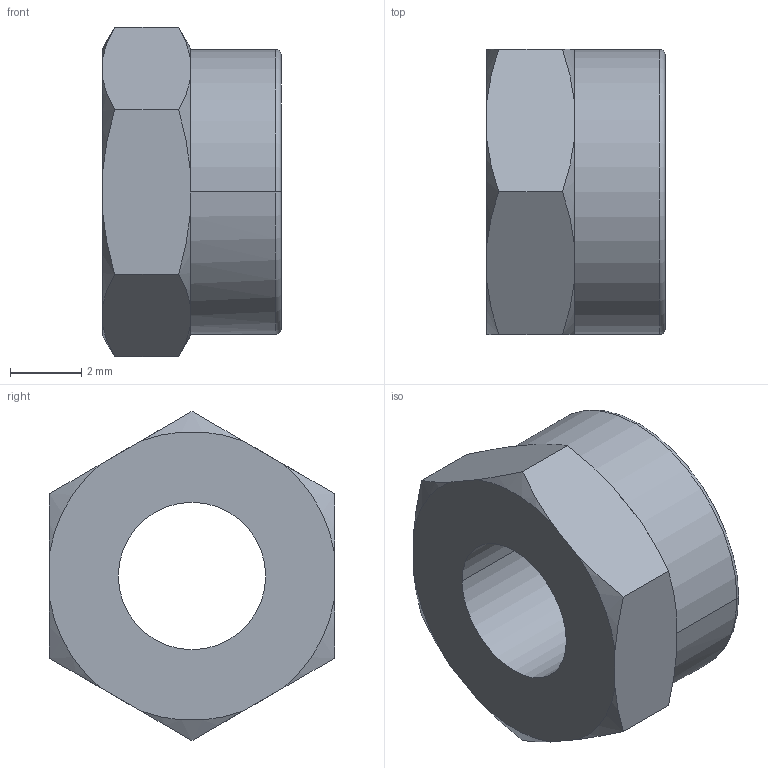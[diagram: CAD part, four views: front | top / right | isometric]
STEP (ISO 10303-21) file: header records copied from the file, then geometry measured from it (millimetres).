
FILE_DESCRIPTION(('3DEXPERIENCE STEP','CAx-IF Rec.Pracs.--- Model Styling and Organization---1.5--- 2016-08-15','CAx-IF Rec.Pracs.---Supplemental Geometry---1.0---2011-11-01','CAx-IF Rec.Pracs.--- Composite Materials ---3.4---2017-06-13','CAx-IF Rec.Pracs.---Tessellated 3D Geometry---1.0---2015-12-17'),'2;1');
FILE_NAME('\\?\D:\School\CarTech\CTU.25\Tutorials\Model\OEM\Nut_M5.stp','2024-09-26T02:47:33+00:00',('none'),('none'),'3DEXPERIENCE Platform3DEXPERIENCE R2024x HotFix 4.24','3DEXPERIENCE Platform STEP AP242 v3','none');
FILE_SCHEMA(('AP242_MANAGED_MODEL_BASED_3D_ENGINEERING_MIM_LF {1 0 10303 442 1 1 4}'));
Length unit declared in the file: millimetre
Products named in the file (1): Nut_ISO_10511_M5_1
Bounding box: 5 x 8 x 9.24 mm (x, y, z)
Volume: 195.9 mm3; surface area: 275 mm2
Topology: 1 solids, 1 shells, 33 faces, 83 edges, 52 vertices
Faces by surface type: plane 14, cone 12, cylinder 4, torus 3
Entity records: 1071 total; most frequent: CARTESIAN_POINT 380, ORIENTED_EDGE 166, DIRECTION 89, EDGE_CURVE 83, VERTEX_POINT 52, AXIS2_PLACEMENT_3D 47, EDGE_LOOP 35, ADVANCED_FACE 33
